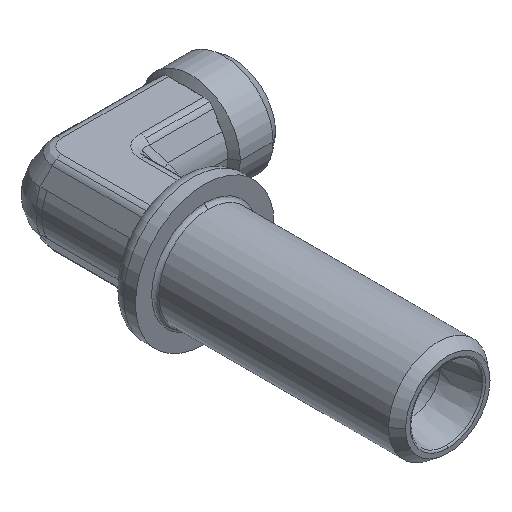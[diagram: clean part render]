
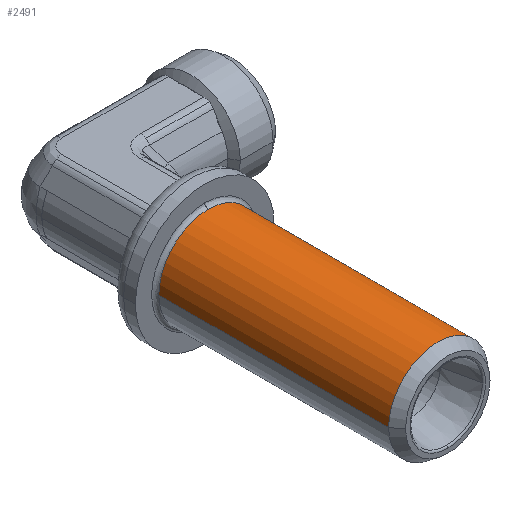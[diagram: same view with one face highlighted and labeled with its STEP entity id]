
A CAD part, isometric view. The second image highlights one B-rep face of the part: STEP entity #2491.
In plain terms, the highlighted cylindrical face has radius 6.925 mm (diameter 13.85 mm), a partial arc.
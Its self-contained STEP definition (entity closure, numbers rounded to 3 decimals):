
#1095=CARTESIAN_POINT('',(13.,0.,-6.925));
#1096=VERTEX_POINT('',#1095);
#1104=CARTESIAN_POINT('',(13.,-6.925,0.));
#1105=VERTEX_POINT('',#1104);
#1106=CARTESIAN_POINT('',(13.,0.,0.));
#1107=DIRECTION('',(-1.0,0.0,0.0));
#1108=DIRECTION('',(0.0,0.0,1.0));
#1109=AXIS2_PLACEMENT_3D('',#1106,#1107,#1108);
#1110=CIRCLE('',#1109,6.925);
#1111=EDGE_CURVE('',#1096,#1105,#1110,.T.);
#1137=CARTESIAN_POINT('',(45.14,0.,6.925));
#1138=VERTEX_POINT('',#1137);
#1139=CARTESIAN_POINT('',(13.,0.,6.925));
#1140=VERTEX_POINT('',#1139);
#1141=CARTESIAN_POINT('',(45.14,0.,6.925));
#1142=DIRECTION('',(-1.0,0.0,0.0));
#1143=VECTOR('',#1142,32.14);
#1144=LINE('',#1141,#1143);
#1145=EDGE_CURVE('',#1138,#1140,#1144,.T.);
#1147=CARTESIAN_POINT('',(45.14,0.,-6.925));
#1148=VERTEX_POINT('',#1147);
#1156=CARTESIAN_POINT('',(13.,0.,-6.925));
#1157=DIRECTION('',(1.0,0.0,0.0));
#1158=VECTOR('',#1157,32.14);
#1159=LINE('',#1156,#1158);
#1160=EDGE_CURVE('',#1096,#1148,#1159,.T.);
#2461=CARTESIAN_POINT('',(45.14,0.,0.));
#2462=DIRECTION('',(-1.0,0.0,0.0));
#2463=DIRECTION('',(0.0,0.0,1.0));
#2464=AXIS2_PLACEMENT_3D('',#2461,#2462,#2463);
#2465=CIRCLE('',#2464,6.925);
#2466=EDGE_CURVE('',#1148,#1138,#2465,.T.);
#2473=CARTESIAN_POINT('',(29.07,0.,0.));
#2474=DIRECTION('',(-1.0,0.,0.));
#2475=DIRECTION('',(0.0,0.0,1.0));
#2476=AXIS2_PLACEMENT_3D('',#2473,#2474,#2475);
#2477=CYLINDRICAL_SURFACE('',#2476,6.925);
#2478=ORIENTED_EDGE('',*,*,#1145,.T.);
#2479=CARTESIAN_POINT('',(13.,0.,0.));
#2480=DIRECTION('',(-1.0,0.0,0.0));
#2481=DIRECTION('',(0.0,0.0,1.0));
#2482=AXIS2_PLACEMENT_3D('',#2479,#2480,#2481);
#2483=CIRCLE('',#2482,6.925);
#2484=EDGE_CURVE('',#1105,#1140,#2483,.T.);
#2485=ORIENTED_EDGE('',*,*,#2484,.F.);
#2486=ORIENTED_EDGE('',*,*,#1111,.F.);
#2487=ORIENTED_EDGE('',*,*,#1160,.T.);
#2488=ORIENTED_EDGE('',*,*,#2466,.T.);
#2489=EDGE_LOOP('',(#2478,#2485,#2486,#2487,#2488));
#2490=FACE_OUTER_BOUND('',#2489,.T.);
#2491=ADVANCED_FACE('',(#2490),#2477,.T.);
